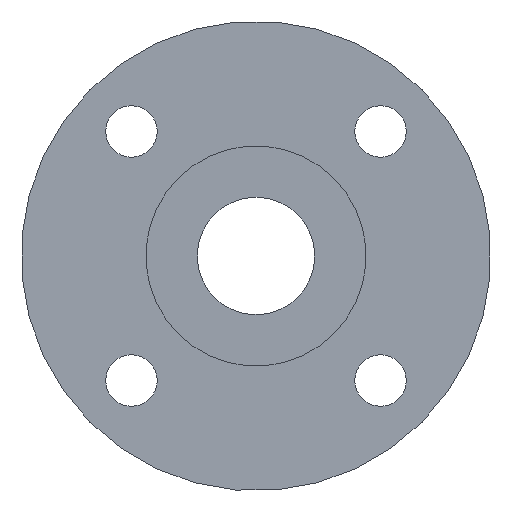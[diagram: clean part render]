
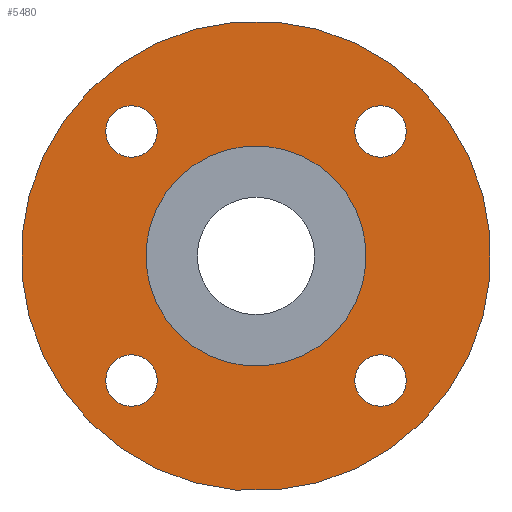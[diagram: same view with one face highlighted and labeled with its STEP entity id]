
A CAD part, left-side view. The second image highlights one B-rep face of the part: STEP entity #5480.
In plain terms, the highlighted planar face has unit normal (-1, 0, 0).
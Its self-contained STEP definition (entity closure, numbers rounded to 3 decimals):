
#113=CIRCLE('',#5830,7.5);
#115=CIRCLE('',#5835,1.75);
#116=CIRCLE('',#5836,1.75);
#117=CIRCLE('',#5837,1.75);
#118=CIRCLE('',#5838,1.75);
#119=CIRCLE('',#5839,16.);
#1658=ORIENTED_EDGE('',*,*,#3235,.T.);
#1659=ORIENTED_EDGE('',*,*,#3236,.T.);
#1660=ORIENTED_EDGE('',*,*,#3237,.T.);
#1661=ORIENTED_EDGE('',*,*,#3238,.T.);
#1662=ORIENTED_EDGE('',*,*,#3239,.F.);
#1663=ORIENTED_EDGE('',*,*,#3233,.T.);
#3233=EDGE_CURVE('',#4023,#4023,#113,.T.);
#3235=EDGE_CURVE('',#4025,#4025,#115,.T.);
#3236=EDGE_CURVE('',#4026,#4026,#116,.T.);
#3237=EDGE_CURVE('',#4027,#4027,#117,.T.);
#3238=EDGE_CURVE('',#4028,#4028,#118,.T.);
#3239=EDGE_CURVE('',#4029,#4029,#119,.T.);
#4023=VERTEX_POINT('',#8651);
#4025=VERTEX_POINT('',#8658);
#4026=VERTEX_POINT('',#8660);
#4027=VERTEX_POINT('',#8662);
#4028=VERTEX_POINT('',#8664);
#4029=VERTEX_POINT('',#8666);
#4487=EDGE_LOOP('',(#1658));
#4488=EDGE_LOOP('',(#1659));
#4489=EDGE_LOOP('',(#1660));
#4490=EDGE_LOOP('',(#1661));
#4491=EDGE_LOOP('',(#1662));
#4492=EDGE_LOOP('',(#1663));
#4885=FACE_BOUND('',#4487,.T.);
#4886=FACE_BOUND('',#4488,.T.);
#4887=FACE_BOUND('',#4489,.T.);
#4888=FACE_BOUND('',#4490,.T.);
#4889=FACE_BOUND('',#4491,.T.);
#4890=FACE_BOUND('',#4492,.T.);
#5232=PLANE('',#5834);
#5480=ADVANCED_FACE('',(#4885,#4886,#4887,#4888,#4889,#4890),#5232,.F.);
#5830=AXIS2_PLACEMENT_3D('',#8650,#6327,#6328);
#5834=AXIS2_PLACEMENT_3D('',#8656,#6335,#6336);
#5835=AXIS2_PLACEMENT_3D('',#8657,#6337,#6338);
#5836=AXIS2_PLACEMENT_3D('',#8659,#6339,#6340);
#5837=AXIS2_PLACEMENT_3D('',#8661,#6341,#6342);
#5838=AXIS2_PLACEMENT_3D('',#8663,#6343,#6344);
#5839=AXIS2_PLACEMENT_3D('',#8665,#6345,#6346);
#6327=DIRECTION('',(1.,0.,0.));
#6328=DIRECTION('',(0.,0.707,-0.707));
#6335=DIRECTION('',(1.,0.,0.));
#6336=DIRECTION('',(0.,0.707,-0.707));
#6337=DIRECTION('',(1.,0.,0.));
#6338=DIRECTION('',(0.,0.707,-0.707));
#6339=DIRECTION('',(1.,0.,0.));
#6340=DIRECTION('',(0.,0.707,-0.707));
#6341=DIRECTION('',(1.,0.,0.));
#6342=DIRECTION('',(0.,0.707,-0.707));
#6343=DIRECTION('',(1.,0.,0.));
#6344=DIRECTION('',(0.,0.707,-0.707));
#6345=DIRECTION('',(1.,0.,0.));
#6346=DIRECTION('',(0.,0.707,-0.707));
#8650=CARTESIAN_POINT('',(17.5,0.,0.));
#8651=CARTESIAN_POINT('',(17.5,5.303,-5.303));
#8656=CARTESIAN_POINT('',(17.5,0.,0.));
#8657=CARTESIAN_POINT('',(17.5,8.485,-8.485));
#8658=CARTESIAN_POINT('',(17.5,9.723,-9.723));
#8659=CARTESIAN_POINT('',(17.5,-8.485,-8.485));
#8660=CARTESIAN_POINT('',(17.5,-7.248,-9.723));
#8661=CARTESIAN_POINT('',(17.5,-8.485,8.485));
#8662=CARTESIAN_POINT('',(17.5,-7.248,7.248));
#8663=CARTESIAN_POINT('',(17.5,8.485,8.485));
#8664=CARTESIAN_POINT('',(17.5,9.723,7.248));
#8665=CARTESIAN_POINT('',(17.5,0.,0.));
#8666=CARTESIAN_POINT('',(17.5,11.314,-11.314));
